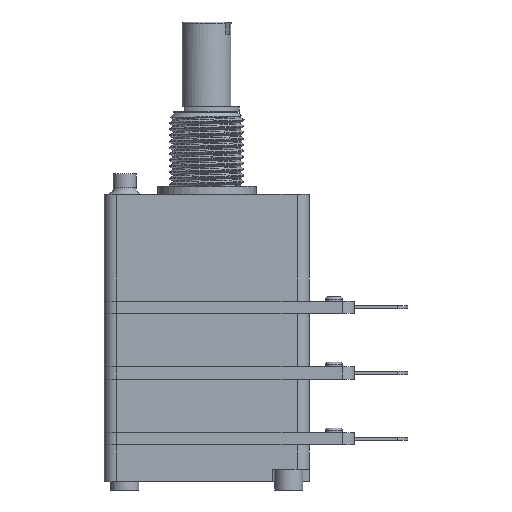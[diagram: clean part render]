
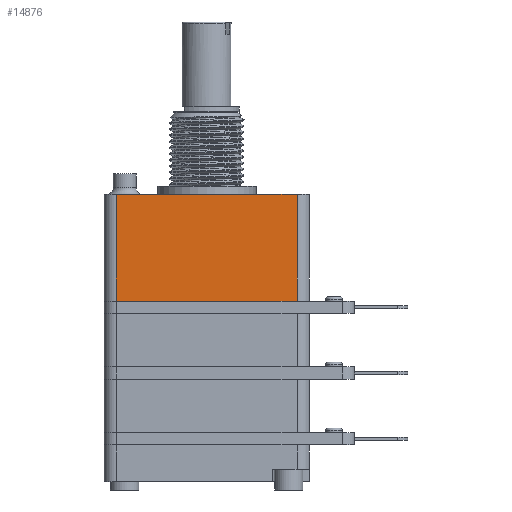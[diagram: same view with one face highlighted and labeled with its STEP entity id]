
A CAD part, left-side view. The second image highlights one B-rep face of the part: STEP entity #14876.
In plain terms, the highlighted planar face has unit normal (-1, 0, 0).
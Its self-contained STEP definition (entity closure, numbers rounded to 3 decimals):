
#14522 = PLANE('',#14523);
#14523 = AXIS2_PLACEMENT_3D('',#14524,#14525,#14526);
#14524 = CARTESIAN_POINT('',(-12.5,-12.5,-1.));
#14525 = DIRECTION('',(0.,0.,1.));
#14526 = DIRECTION('',(1.,0.,0.));
#14537 = EDGE_CURVE('',#14538,#14540,#14542,.T.);
#14538 = VERTEX_POINT('',#14539);
#14539 = CARTESIAN_POINT('',(-12.5,-11.,-1.));
#14540 = VERTEX_POINT('',#14541);
#14541 = CARTESIAN_POINT('',(-12.5,11.,-1.));
#14542 = SURFACE_CURVE('',#14543,(#14547,#14554),.PCURVE_S1.);
#14543 = LINE('',#14544,#14545);
#14544 = CARTESIAN_POINT('',(-12.5,-12.5,-1.));
#14545 = VECTOR('',#14546,1.);
#14546 = DIRECTION('',(0.,1.,0.));
#14547 = PCURVE('',#14522,#14548);
#14548 = DEFINITIONAL_REPRESENTATION('',(#14549),#14553);
#14549 = LINE('',#14550,#14551);
#14550 = CARTESIAN_POINT('',(0.,0.));
#14551 = VECTOR('',#14552,1.);
#14552 = DIRECTION('',(0.,1.));
#14553 = ( GEOMETRIC_REPRESENTATION_CONTEXT(2) 
PARAMETRIC_REPRESENTATION_CONTEXT() REPRESENTATION_CONTEXT('2D SPACE',''
  ) );
#14554 = PCURVE('',#14555,#14560);
#14555 = PLANE('',#14556);
#14556 = AXIS2_PLACEMENT_3D('',#14557,#14558,#14559);
#14557 = CARTESIAN_POINT('',(-12.5,-12.5,-14.));
#14558 = DIRECTION('',(1.,0.,0.));
#14559 = DIRECTION('',(0.,0.,1.));
#14560 = DEFINITIONAL_REPRESENTATION('',(#14561),#14565);
#14561 = LINE('',#14562,#14563);
#14562 = CARTESIAN_POINT('',(13.,0.));
#14563 = VECTOR('',#14564,1.);
#14564 = DIRECTION('',(0.,-1.));
#14565 = ( GEOMETRIC_REPRESENTATION_CONTEXT(2) 
PARAMETRIC_REPRESENTATION_CONTEXT() REPRESENTATION_CONTEXT('2D SPACE',''
  ) );
#14584 = CYLINDRICAL_SURFACE('',#14585,1.5);
#14585 = AXIS2_PLACEMENT_3D('',#14586,#14587,#14588);
#14586 = CARTESIAN_POINT('',(-11.,-11.,-14.));
#14587 = DIRECTION('',(0.,0.,1.));
#14588 = DIRECTION('',(-1.,0.,0.));
#14761 = CYLINDRICAL_SURFACE('',#14762,1.5);
#14762 = AXIS2_PLACEMENT_3D('',#14763,#14764,#14765);
#14763 = CARTESIAN_POINT('',(-11.,11.,-14.));
#14764 = DIRECTION('',(0.,0.,1.));
#14765 = DIRECTION('',(-1.,0.,0.));
#14876 = ADVANCED_FACE('',(#14877),#14555,.F.);
#14877 = FACE_BOUND('',#14878,.F.);
#14878 = EDGE_LOOP('',(#14879,#14880,#14903,#14931));
#14879 = ORIENTED_EDGE('',*,*,#14537,.F.);
#14880 = ORIENTED_EDGE('',*,*,#14881,.F.);
#14881 = EDGE_CURVE('',#14882,#14538,#14884,.T.);
#14882 = VERTEX_POINT('',#14883);
#14883 = CARTESIAN_POINT('',(-12.5,-11.,-14.));
#14884 = SURFACE_CURVE('',#14885,(#14889,#14896),.PCURVE_S1.);
#14885 = LINE('',#14886,#14887);
#14886 = CARTESIAN_POINT('',(-12.5,-11.,-14.));
#14887 = VECTOR('',#14888,1.);
#14888 = DIRECTION('',(0.,0.,1.));
#14889 = PCURVE('',#14555,#14890);
#14890 = DEFINITIONAL_REPRESENTATION('',(#14891),#14895);
#14891 = LINE('',#14892,#14893);
#14892 = CARTESIAN_POINT('',(0.,-1.5));
#14893 = VECTOR('',#14894,1.);
#14894 = DIRECTION('',(1.,0.));
#14895 = ( GEOMETRIC_REPRESENTATION_CONTEXT(2) 
PARAMETRIC_REPRESENTATION_CONTEXT() REPRESENTATION_CONTEXT('2D SPACE',''
  ) );
#14896 = PCURVE('',#14584,#14897);
#14897 = DEFINITIONAL_REPRESENTATION('',(#14898),#14902);
#14898 = LINE('',#14899,#14900);
#14899 = CARTESIAN_POINT('',(0.,0.));
#14900 = VECTOR('',#14901,1.);
#14901 = DIRECTION('',(0.,1.));
#14902 = ( GEOMETRIC_REPRESENTATION_CONTEXT(2) 
PARAMETRIC_REPRESENTATION_CONTEXT() REPRESENTATION_CONTEXT('2D SPACE',''
  ) );
#14903 = ORIENTED_EDGE('',*,*,#14904,.T.);
#14904 = EDGE_CURVE('',#14882,#14905,#14907,.T.);
#14905 = VERTEX_POINT('',#14906);
#14906 = CARTESIAN_POINT('',(-12.5,11.,-14.));
#14907 = SURFACE_CURVE('',#14908,(#14912,#14919),.PCURVE_S1.);
#14908 = LINE('',#14909,#14910);
#14909 = CARTESIAN_POINT('',(-12.5,-12.5,-14.));
#14910 = VECTOR('',#14911,1.);
#14911 = DIRECTION('',(0.,1.,0.));
#14912 = PCURVE('',#14555,#14913);
#14913 = DEFINITIONAL_REPRESENTATION('',(#14914),#14918);
#14914 = LINE('',#14915,#14916);
#14915 = CARTESIAN_POINT('',(0.,0.));
#14916 = VECTOR('',#14917,1.);
#14917 = DIRECTION('',(0.,-1.));
#14918 = ( GEOMETRIC_REPRESENTATION_CONTEXT(2) 
PARAMETRIC_REPRESENTATION_CONTEXT() REPRESENTATION_CONTEXT('2D SPACE',''
  ) );
#14919 = PCURVE('',#14920,#14925);
#14920 = PLANE('',#14921);
#14921 = AXIS2_PLACEMENT_3D('',#14922,#14923,#14924);
#14922 = CARTESIAN_POINT('',(-12.5,-18.,-15.5));
#14923 = DIRECTION('',(1.,0.,0.));
#14924 = DIRECTION('',(0.,0.,1.));
#14925 = DEFINITIONAL_REPRESENTATION('',(#14926),#14930);
#14926 = LINE('',#14927,#14928);
#14927 = CARTESIAN_POINT('',(1.5,-5.5));
#14928 = VECTOR('',#14929,1.);
#14929 = DIRECTION('',(0.,-1.));
#14930 = ( GEOMETRIC_REPRESENTATION_CONTEXT(2) 
PARAMETRIC_REPRESENTATION_CONTEXT() REPRESENTATION_CONTEXT('2D SPACE',''
  ) );
#14931 = ORIENTED_EDGE('',*,*,#14932,.T.);
#14932 = EDGE_CURVE('',#14905,#14540,#14933,.T.);
#14933 = SURFACE_CURVE('',#14934,(#14938,#14945),.PCURVE_S1.);
#14934 = LINE('',#14935,#14936);
#14935 = CARTESIAN_POINT('',(-12.5,11.,-14.));
#14936 = VECTOR('',#14937,1.);
#14937 = DIRECTION('',(0.,0.,1.));
#14938 = PCURVE('',#14555,#14939);
#14939 = DEFINITIONAL_REPRESENTATION('',(#14940),#14944);
#14940 = LINE('',#14941,#14942);
#14941 = CARTESIAN_POINT('',(0.,-23.5));
#14942 = VECTOR('',#14943,1.);
#14943 = DIRECTION('',(1.,0.));
#14944 = ( GEOMETRIC_REPRESENTATION_CONTEXT(2) 
PARAMETRIC_REPRESENTATION_CONTEXT() REPRESENTATION_CONTEXT('2D SPACE',''
  ) );
#14945 = PCURVE('',#14761,#14946);
#14946 = DEFINITIONAL_REPRESENTATION('',(#14947),#14951);
#14947 = LINE('',#14948,#14949);
#14948 = CARTESIAN_POINT('',(-0.,0.));
#14949 = VECTOR('',#14950,1.);
#14950 = DIRECTION('',(-0.,1.));
#14951 = ( GEOMETRIC_REPRESENTATION_CONTEXT(2) 
PARAMETRIC_REPRESENTATION_CONTEXT() REPRESENTATION_CONTEXT('2D SPACE',''
  ) );
